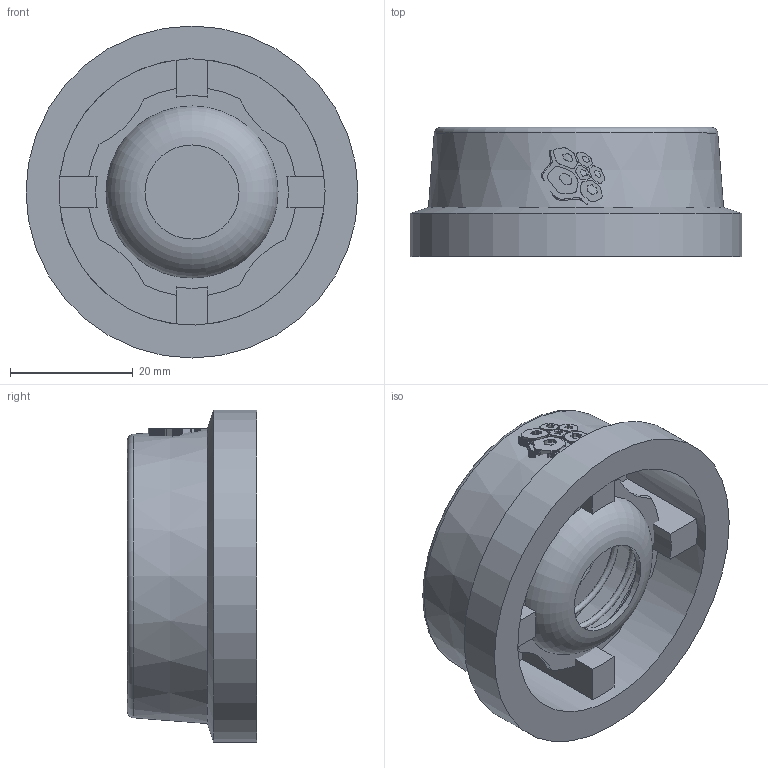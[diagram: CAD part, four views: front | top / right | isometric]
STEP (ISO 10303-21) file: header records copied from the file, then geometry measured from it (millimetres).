
FILE_DESCRIPTION(('STEP AP203'), '1');
FILE_NAME('3D_404-025-40_5', '', ('UNSPECIFIED'), ('UNSPECIFIED'), 'C3D Converter', 'C3D Toolkit', '');
FILE_SCHEMA(('CONFIG_CONTROL_DESIGN'));
Length unit declared in the file: millimetre
Bounding box: 54 x 21 x 54 mm (x, y, z)
Volume: 16234.5 mm3; surface area: 14214.9 mm2
Topology: 13 solids, 13 shells, 875 faces, 2557 edges, 1708 vertices
Faces by surface type: plane 843, cylinder 18, cone 10, torus 3, bspline 1
Full cylindrical faces by diameter (mm): 15.292 x1, 25 x1, 28 x1, 29 x1, 43.3 x1, 54 x1
Entity records: 38820 total; most frequent: CARTESIAN_POINT 10026, ORIENTED_EDGE 5088, DIRECTION 3565, EDGE_CURVE 2544, VERTEX_POINT 1707, LINE 1689, VECTOR 1689, AXIS2_PLACEMENT_3D 938
